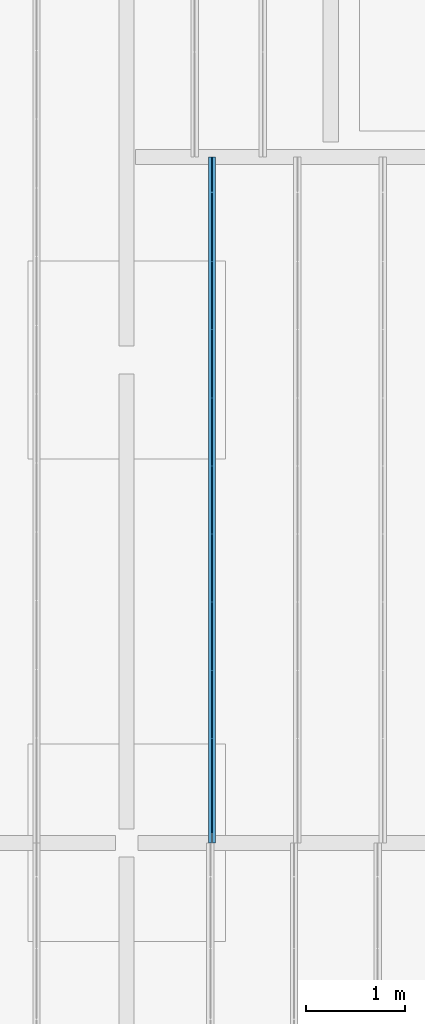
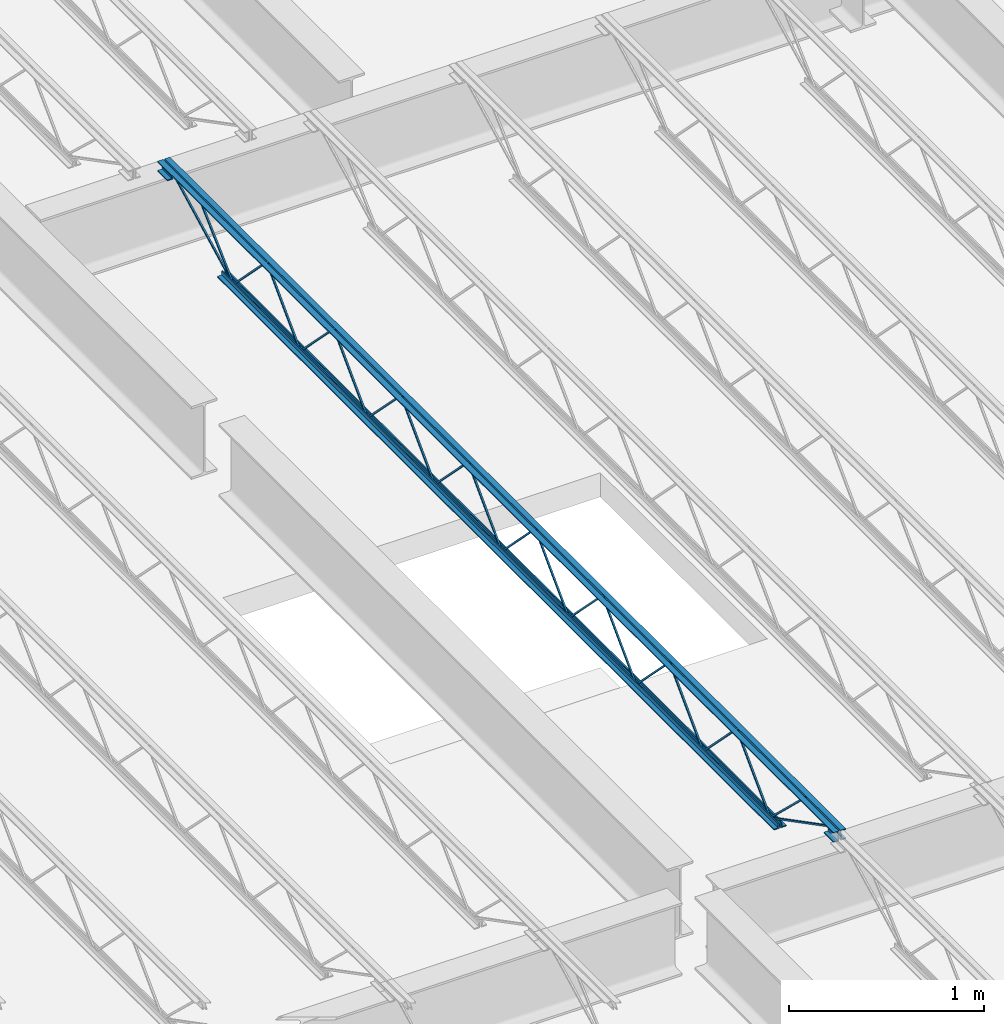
# One storey, part 24 of 75: 1 beam.
"""IFC2X3 building model written with IfcOpenShell, lengths in metres."""

from ifc_helpers import new_model, entity, si_unit, converted_unit, frame, origin, place, context, project, spatial, face_set, surface_model, element, save


model = new_model("IFC2X3")

# Units and contexts
model_context = context("Model", 3, precision=1e-09, world=origin())
plan_context = context("Plan", 3, precision=1e-09, world=origin())
ifc_project = project(units=[si_unit("LENGTHUNIT", "METRE"), si_unit("AREAUNIT", "SQUARE_METRE"), si_unit("VOLUMEUNIT", "CUBIC_METRE"), converted_unit("PLANEANGLEUNIT", "DEGREE", entity("IfcRatioMeasure", 0.01745329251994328), si_unit("PLANEANGLEUNIT", "RADIAN"), dimensions=[0, 0, 0, 0, 0, 0, 0]), si_unit("TIMEUNIT", "SECOND")], contexts=[model_context, plan_context])

# Site, building, storey
site_placement = place(None, origin())
site = spatial("IfcSite", under=ifc_project, at=site_placement, Name="Default", CompositionType="ELEMENT")
building_placement = place(site_placement, origin())
building = spatial("IfcBuilding", under=site, at=building_placement, CompositionType="ELEMENT")
storey_placement = place(building_placement, origin())
storey = spatial("IfcBuildingStorey", under=building, at=storey_placement, Name="First Floor", CompositionType="ELEMENT", Elevation=-3.531500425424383e-13)

# Beam
beam_placement = place(storey_placement, frame((-19.2334125, 18.61003029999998, 4.112000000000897), z_axis=(0.0, 0.0, 1.0), x_axis=(-1.0, 0.0, 0.0)))
element("IfcBeam", 1, at=beam_placement, inside=storey, Name="M_K-Series Bar Joist-Rod Web:14K1:14K1", ObjectType="M_K-Series Bar Joist-Rod Web:14K1", context=model_context, shape_type="SurfaceModel", body=[
    surface_model("IfcFaceBasedSurfaceModel", [(-0.03199999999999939, -2.08975000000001, 0.01110000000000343), (-0.04149999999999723, -2.08975000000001, 0.01110000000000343), (-0.04149999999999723, -2.08975000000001, 0.001600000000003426), (-0.03199999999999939, -2.08975000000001, 0.001600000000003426), (-0.0414999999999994, -2.088563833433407, 0.01110000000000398), (-0.03199999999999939, -2.088563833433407, 0.01110000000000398), (-0.04149999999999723, -2.084586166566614, 0.001600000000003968), (-0.04149999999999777, -1.746498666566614, 0.3449000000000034), (-0.04149999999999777, -1.744126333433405, 0.3449000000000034), (-0.0414999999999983, -1.40603883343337, 0.001600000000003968), (-0.04150000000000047, -1.400875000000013, 0.001600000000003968), (-0.04149999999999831, -1.400875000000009, 0.01110000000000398), (-0.0414999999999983, -1.402061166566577, 0.01110000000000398), (-0.04149999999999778, -1.740148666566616, 0.3544000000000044), (-0.04149999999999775, -1.750476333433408, 0.3544000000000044), (-0.03199999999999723, -2.084586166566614, 0.001600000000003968), (-0.03199999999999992, -1.746498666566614, 0.3449000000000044), (-0.03199999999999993, -1.744126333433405, 0.3449000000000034), (-0.03199999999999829, -1.40603883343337, 0.001600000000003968), (-0.03199999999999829, -1.400875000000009, 0.001600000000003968), (-0.03199999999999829, -1.400875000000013, 0.01110000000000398), (-0.03200000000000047, -1.402061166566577, 0.01110000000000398), (-0.03199999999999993, -1.740148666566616, 0.3544000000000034), (-0.03199999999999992, -1.750476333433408, 0.3544000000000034), (-0.03200000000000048, -2.778625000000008, 0.01110000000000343), (-0.04149999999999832, -2.778625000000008, 0.01110000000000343), (-0.04149999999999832, -2.778625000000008, 0.001600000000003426), (-0.03200000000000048, -2.778625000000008, 0.001600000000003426), (-0.04150000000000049, -2.777438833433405, 0.01110000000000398), (-0.03200000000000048, -2.777438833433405, 0.01110000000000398), (-0.04149999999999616, -2.773461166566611, 0.001600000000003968), (-0.04149999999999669, -2.435373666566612, 0.3449000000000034), (-0.04149999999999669, -2.433001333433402, 0.3449000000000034), (-0.04149999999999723, -2.094913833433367, 0.001600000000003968), (-0.04149999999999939, -2.089750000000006, 0.001600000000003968), (-0.04149999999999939, -2.089750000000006, 0.01110000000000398), (-0.04149999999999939, -2.090936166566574, 0.01110000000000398), (-0.04149999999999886, -2.429023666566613, 0.3544000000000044), (-0.04149999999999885, -2.439351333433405, 0.3544000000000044), (-0.03199999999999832, -2.773461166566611, 0.001600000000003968), (-0.03200000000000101, -2.435373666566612, 0.3449000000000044), (-0.03200000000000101, -2.433001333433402, 0.3449000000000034), (-0.03199999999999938, -2.094913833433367, 0.001600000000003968), (-0.03199999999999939, -2.089750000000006, 0.001600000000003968), (-0.03199999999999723, -2.089750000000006, 0.01110000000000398), (-0.03199999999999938, -2.090936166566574, 0.01110000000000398), (-0.03199999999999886, -2.429023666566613, 0.3544000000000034), (-0.03199999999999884, -2.439351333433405, 0.3544000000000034), (-0.0319999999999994, -3.467500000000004, 0.01110000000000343), (-0.04149999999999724, -3.467500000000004, 0.01110000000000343), (-0.04149999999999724, -3.467500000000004, 0.001600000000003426), (-0.0319999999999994, -3.467500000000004, 0.001600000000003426), (-0.04149999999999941, -3.466313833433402, 0.01110000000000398), (-0.0319999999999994, -3.466313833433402, 0.01110000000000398), (-0.04149999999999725, -3.462336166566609, 0.001600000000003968), (-0.04149999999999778, -3.124248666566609, 0.3449000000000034), (-0.04149999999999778, -3.121876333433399, 0.3449000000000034), (-0.04149999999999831, -2.783788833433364, 0.001600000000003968), (-0.04150000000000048, -2.778625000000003, 0.001600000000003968), (-0.04149999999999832, -2.778625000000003, 0.01110000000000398), (-0.04149999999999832, -2.779811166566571, 0.01110000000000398), (-0.04149999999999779, -3.11789866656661, 0.3544000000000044), (-0.04149999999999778, -3.128226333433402, 0.3544000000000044), (-0.03199999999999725, -3.462336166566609, 0.001600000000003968), (-0.03199999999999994, -3.124248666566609, 0.3449000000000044), (-0.03199999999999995, -3.121876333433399, 0.3449000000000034), (-0.03199999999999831, -2.783788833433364, 0.001600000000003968), (-0.03199999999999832, -2.778625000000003, 0.001600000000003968), (-0.03199999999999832, -2.778625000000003, 0.01110000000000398), (-0.03200000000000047, -2.779811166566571, 0.01110000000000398), (-0.03199999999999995, -3.11789866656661, 0.3544000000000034), (-0.03199999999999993, -3.128226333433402, 0.3544000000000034), (-0.03199999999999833, -4.156375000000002, 0.01110000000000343), (-0.04149999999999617, -4.156375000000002, 0.01110000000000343), (-0.04149999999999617, -4.156375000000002, 0.001600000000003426), (-0.03199999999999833, -4.156375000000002, 0.001600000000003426), (-0.04149999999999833, -4.155188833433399, 0.01110000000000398), (-0.03199999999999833, -4.155188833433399, 0.01110000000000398), (-0.04149999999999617, -4.151211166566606, 0.001600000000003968), (-0.0414999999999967, -3.813123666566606, 0.3449000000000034), (-0.04149999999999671, -3.810751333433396, 0.3449000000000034), (-0.04149999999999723, -3.472663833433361, 0.001600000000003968), (-0.04149999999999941, -3.4675, 0.001600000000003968), (-0.04149999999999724, -3.4675, 0.01110000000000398), (-0.04149999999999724, -3.468686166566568, 0.01110000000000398), (-0.04149999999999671, -3.806773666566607, 0.3544000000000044), (-0.0414999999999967, -3.817101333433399, 0.3544000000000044), (-0.03199999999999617, -4.151211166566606, 0.001600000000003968), (-0.03199999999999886, -3.813123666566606, 0.3449000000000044), (-0.03199999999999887, -3.810751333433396, 0.3449000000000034), (-0.03199999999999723, -3.472663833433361, 0.001600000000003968), (-0.03199999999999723, -3.4675, 0.001600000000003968), (-0.03199999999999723, -3.4675, 0.01110000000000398), (-0.0319999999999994, -3.468686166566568, 0.01110000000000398), (-0.03199999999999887, -3.806773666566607, 0.3544000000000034), (-0.03199999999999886, -3.817101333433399, 0.3544000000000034), (-0.03199999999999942, -4.845249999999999, 0.01110000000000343), (-0.04149999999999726, -4.845249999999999, 0.01110000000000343), (-0.04149999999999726, -4.845249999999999, 0.001600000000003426), (-0.03199999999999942, -4.845249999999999, 0.001600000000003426), (-0.04149999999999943, -4.844063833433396, 0.01110000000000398), (-0.03199999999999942, -4.844063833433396, 0.01110000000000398), (-0.04149999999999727, -4.840086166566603, 0.001600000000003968), (-0.04149999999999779, -4.501998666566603, 0.3449000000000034), (-0.0414999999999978, -4.499626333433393, 0.3449000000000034), (-0.04149999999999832, -4.161538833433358, 0.001600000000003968), (-0.04149999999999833, -4.156374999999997, 0.001600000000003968), (-0.04149999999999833, -4.156374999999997, 0.01110000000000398), (-0.04149999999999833, -4.157561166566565, 0.01110000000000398), (-0.0414999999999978, -4.495648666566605, 0.3544000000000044), (-0.04149999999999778, -4.505976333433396, 0.3544000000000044), (-0.03199999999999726, -4.840086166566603, 0.001600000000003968), (-0.03199999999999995, -4.501998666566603, 0.3449000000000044), (-0.03199999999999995, -4.499626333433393, 0.3449000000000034), (-0.03199999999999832, -4.161538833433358, 0.001600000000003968), (-0.03199999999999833, -4.156374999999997, 0.001600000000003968), (-0.03199999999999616, -4.156374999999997, 0.01110000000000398), (-0.03199999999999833, -4.157561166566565, 0.01110000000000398), (-0.03199999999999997, -4.495648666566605, 0.3544000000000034), (-0.03199999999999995, -4.505976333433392, 0.3544000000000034), (-0.03199999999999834, -5.534124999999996, 0.01110000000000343), (-0.04149999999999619, -5.534124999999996, 0.01110000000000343), (-0.04149999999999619, -5.534124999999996, 0.001600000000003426), (-0.03199999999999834, -5.534124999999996, 0.001600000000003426), (-0.04149999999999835, -5.532938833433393, 0.01110000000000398), (-0.03199999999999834, -5.532938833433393, 0.01110000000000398), (-0.04149999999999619, -5.5289611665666, 0.001600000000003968), (-0.04149999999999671, -5.1908736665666, 0.3449000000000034), (-0.04149999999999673, -5.188501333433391, 0.3449000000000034), (-0.04149999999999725, -4.850413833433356, 0.001600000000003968), (-0.04149999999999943, -4.845249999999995, 0.001600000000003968), (-0.04149999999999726, -4.845249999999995, 0.01110000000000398), (-0.04149999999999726, -4.846436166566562, 0.01110000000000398), (-0.04149999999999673, -5.184523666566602, 0.3544000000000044), (-0.04149999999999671, -5.194851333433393, 0.3544000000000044), (-0.03199999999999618, -5.5289611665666, 0.001600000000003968), (-0.03199999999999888, -5.1908736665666, 0.3449000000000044), (-0.03199999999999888, -5.188501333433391, 0.3449000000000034), (-0.03199999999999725, -4.850413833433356, 0.001600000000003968), (-0.03199999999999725, -4.845249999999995, 0.001600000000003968), (-0.03199999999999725, -4.845249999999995, 0.01110000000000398), (-0.03199999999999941, -4.846436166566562, 0.01110000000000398), (-0.03199999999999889, -5.184523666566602, 0.3544000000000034), (-0.03199999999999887, -5.194851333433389, 0.3544000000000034), (-0.03200000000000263, -1.400875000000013, 0.01109999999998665), (-0.04150000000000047, -1.400875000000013, 0.01109999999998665), (-0.04150000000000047, -1.400875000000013, 0.001599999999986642), (-0.03200000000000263, -1.400875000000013, 0.001599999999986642), (-0.04150000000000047, -1.39968883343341, 0.01109999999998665), (-0.03200000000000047, -1.39968883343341, 0.01109999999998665), (-0.04150000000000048, -1.395711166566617, 0.001599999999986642), (-0.04149999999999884, -1.057623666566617, 0.3448999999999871), (-0.04149999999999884, -1.055251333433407, 0.3448999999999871), (-0.04149999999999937, -0.7171638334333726, 0.001599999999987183), (-0.04150000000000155, -0.7120000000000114, 0.001599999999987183), (-0.04150000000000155, -0.7120000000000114, 0.01109999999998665), (-0.04150000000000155, -0.7131861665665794, 0.01109999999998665), (-0.04150000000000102, -1.051273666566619, 0.3543999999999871), (-0.04150000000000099, -1.06160133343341, 0.3543999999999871), (-0.03200000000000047, -1.395711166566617, 0.001599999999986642), (-0.032000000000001, -1.057623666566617, 0.3448999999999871), (-0.03200000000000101, -1.055251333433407, 0.3448999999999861), (-0.03199999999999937, -0.7171638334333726, 0.001599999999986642), (-0.03199999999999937, -0.7120000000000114, 0.001599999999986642), (-0.03199999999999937, -0.7120000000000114, 0.01109999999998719), (-0.03199999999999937, -0.7131861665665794, 0.01109999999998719), (-0.03199999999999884, -1.051273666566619, 0.3543999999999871), (-0.03199999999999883, -1.06160133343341, 0.3543999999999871), (-0.03199999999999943, -6.222999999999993, 0.01110000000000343), (-0.04149999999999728, -6.222999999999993, 0.01110000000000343), (-0.04149999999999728, -6.222999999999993, 0.001600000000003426), (-0.03199999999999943, -6.222999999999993, 0.001600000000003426), (-0.04149999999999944, -6.221813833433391, 0.01110000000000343), (-0.03199999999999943, -6.221813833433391, 0.01110000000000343), (-0.04149999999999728, -6.217836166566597, 0.001600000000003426), (-0.04149999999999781, -5.879748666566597, 0.3449000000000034), (-0.04149999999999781, -5.877376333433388, 0.3449000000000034), (-0.04149999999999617, -5.539288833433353, 0.001600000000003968), (-0.04149999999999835, -5.534124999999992, 0.001600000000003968), (-0.04149999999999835, -5.534124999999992, 0.01110000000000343), (-0.04149999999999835, -5.53531116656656, 0.01110000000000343), (-0.04149999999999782, -5.873398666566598, 0.3544000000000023), (-0.0414999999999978, -5.883726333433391, 0.3544000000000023), (-0.03199999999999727, -6.217836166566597, 0.001600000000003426), (-0.03199999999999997, -5.879748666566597, 0.3449000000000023), (-0.03199999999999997, -5.877376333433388, 0.3449000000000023), (-0.03199999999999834, -5.539288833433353, 0.001600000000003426), (-0.03199999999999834, -5.534124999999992, 0.001600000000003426), (-0.03199999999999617, -5.534124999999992, 0.01110000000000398), (-0.03199999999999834, -5.53531116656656, 0.01110000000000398), (-0.03199999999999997, -5.873398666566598, 0.3544000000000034), (-0.03199999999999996, -5.883726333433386, 0.3544000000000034), (-0.04150000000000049, 0.0, 0.3559999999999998), (-0.07349999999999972, 0.0, 0.3559999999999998), (-0.07349999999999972, 0.0, 0.349499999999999), (-0.04800000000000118, 0.0, 0.349499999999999), (-0.04800000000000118, 0.0, 0.3239999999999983), (-0.04150000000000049, 0.0, 0.3239999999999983), (-0.03200000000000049, 0.0, 0.3559999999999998), (-0.03200000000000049, 0.0, 0.3239999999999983), (-0.02549999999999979, 0.0, 0.3239999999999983), (-0.02549999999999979, 0.0, 0.349499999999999), (0.0, 0.0, 0.349499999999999), (0.0, 0.0, 0.3559999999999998), (-0.04149999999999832, -6.934999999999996, 0.3559999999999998), (-0.07349999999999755, -6.934999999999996, 0.3559999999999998), (-0.07349999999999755, -6.934999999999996, 0.349499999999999), (-0.04799999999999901, -6.934999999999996, 0.349499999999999), (-0.04799999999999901, -6.934999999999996, 0.3239999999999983), (-0.04149999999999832, -6.934999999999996, 0.3239999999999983), (-0.03199999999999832, -6.934999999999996, 0.3559999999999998), (-0.03199999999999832, -6.934999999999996, 0.3239999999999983), (-0.02549999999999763, -6.934999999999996, 0.3239999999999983), (-0.02549999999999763, -6.934999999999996, 0.349499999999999), (0.0, -6.934999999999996, 0.349499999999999), (0.0, -6.934999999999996, 0.3559999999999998), (-0.03199999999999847, -6.83500000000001, 0.2924999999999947), (0.0, -6.83500000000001, 0.2924999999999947), (0.0, -6.83500000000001, 0.2989999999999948), (-0.02549999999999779, -6.83500000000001, 0.2989999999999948), (-0.02549999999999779, -6.83500000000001, 0.3239999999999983), (-0.03199999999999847, -6.83500000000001, 0.3239999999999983), (-0.0734999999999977, -6.83500000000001, 0.2924999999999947), (-0.04149999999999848, -6.83500000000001, 0.2924999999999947), (-0.04149999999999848, -6.83500000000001, 0.3239999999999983), (-0.04799999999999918, -6.83500000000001, 0.3239999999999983), (-0.04799999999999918, -6.83500000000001, 0.2989999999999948), (-0.0734999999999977, -6.83500000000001, 0.2989999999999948), (-0.03199999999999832, -6.934999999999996, 0.2924999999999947), (0.0, -6.934999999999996, 0.2924999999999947), (0.0, -6.934999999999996, 0.2989999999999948), (-0.02549999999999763, -6.934999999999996, 0.2989999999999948), (-0.07349999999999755, -6.934999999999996, 0.2924999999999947), (-0.04149999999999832, -6.934999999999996, 0.2924999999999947), (-0.04799999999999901, -6.934999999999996, 0.2989999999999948), (-0.07349999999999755, -6.934999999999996, 0.2989999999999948), (-0.04150000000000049, 0.0, 0.2924999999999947), (-0.04799999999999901, 0.0, 0.3239999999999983), (-0.04799999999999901, 0.0, 0.2989999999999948), (-0.07349999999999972, 0.0, 0.2989999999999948), (-0.07349999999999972, 0.0, 0.2924999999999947), (-0.03200000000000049, 0.0, 0.2924999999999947), (0.0, 0.0, 0.2924999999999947), (0.0, 0.0, 0.2989999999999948), (-0.02549999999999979, 0.0, 0.2989999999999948), (-0.04150000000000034, -0.0999999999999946, 0.2924999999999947), (-0.04150000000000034, -0.0999999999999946, 0.3239999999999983), (-0.04799999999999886, -0.0999999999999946, 0.3239999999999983), (-0.04799999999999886, -0.0999999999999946, 0.2989999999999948), (-0.07349999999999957, -0.0999999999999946, 0.2989999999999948), (-0.07349999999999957, -0.0999999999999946, 0.2924999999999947), (-0.03200000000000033, -0.0999999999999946, 0.2924999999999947), (0.0, -0.0999999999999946, 0.2924999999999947), (0.0, -0.0999999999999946, 0.2989999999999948), (-0.02549999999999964, -0.0999999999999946, 0.2989999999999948), (-0.02549999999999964, -0.0999999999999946, 0.3239999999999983), (-0.03200000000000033, -0.0999999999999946, 0.3239999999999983), (-0.04149999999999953, -0.6119999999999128, 0.0), (-0.04149999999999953, -0.6119999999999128, 0.03199999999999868), (-0.04800000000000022, -0.6119999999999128, 0.03199999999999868), (-0.04800000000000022, -0.6119999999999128, 0.006499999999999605), (-0.07349999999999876, -0.6119999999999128, 0.006499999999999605), (-0.07349999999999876, -0.6119999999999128, 0.0), (-0.03199999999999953, -0.6119999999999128, 0.0), (0.0, -0.6119999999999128, 0.0), (0.0, -0.6119999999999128, 0.006499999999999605), (-0.02549999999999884, -0.6119999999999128, 0.006499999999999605), (-0.02549999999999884, -0.6119999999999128, 0.03199999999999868), (-0.03199999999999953, -0.6119999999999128, 0.03199999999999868), (-0.04149999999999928, -6.322999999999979, 0.0), (-0.04149999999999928, -6.322999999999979, 0.03199999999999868), (-0.04799999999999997, -6.322999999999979, 0.03199999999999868), (-0.04799999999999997, -6.322999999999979, 0.006499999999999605), (-0.0734999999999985, -6.322999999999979, 0.006499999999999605), (-0.0734999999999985, -6.322999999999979, 0.0), (-0.03199999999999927, -6.322999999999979, 0.0), (0.0, -6.322999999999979, 0.0), (0.0, -6.322999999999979, 0.006499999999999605), (-0.02549999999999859, -6.322999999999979, 0.006499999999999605), (-0.02549999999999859, -6.322999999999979, 0.03199999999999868), (-0.03199999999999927, -6.322999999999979, 0.03199999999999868), (-0.03199999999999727, -6.220811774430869, 0.01056594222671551), (-0.04149999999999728, -6.220811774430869, 0.01056594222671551), (-0.04149999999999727, -6.225188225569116, 0.002134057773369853), (-0.03199999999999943, -6.225188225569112, 0.002134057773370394), (-0.03199999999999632, -6.83384071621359, 0.3287499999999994), (-0.03199999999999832, -6.934999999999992, 0.3287499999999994), (-0.03199999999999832, -6.934999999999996, 0.3192499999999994), (-0.03199999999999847, -6.836159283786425, 0.3192499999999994), (-0.04149999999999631, -6.836159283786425, 0.3192499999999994), (-0.04149999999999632, -6.83384071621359, 0.3287499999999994), (-0.04149999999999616, -6.934999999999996, 0.3287499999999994), (-0.04149999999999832, -6.934999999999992, 0.3192499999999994), (-0.03199999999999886, -6.587394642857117, 0.341700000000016), (-0.0414999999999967, -6.587394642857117, 0.341700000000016), (-0.0414999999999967, -6.587394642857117, 0.332200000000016), (-0.03199999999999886, -6.587394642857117, 0.332200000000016), (-0.04149999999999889, -6.572812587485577, 0.341700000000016), (-0.03199999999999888, -6.572812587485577, 0.341700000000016), (-0.04149999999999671, -6.576576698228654, 0.332200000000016), (-0.04149999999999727, -6.226253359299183, 0.002889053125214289), (-0.04149999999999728, -6.219746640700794, 0.009810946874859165), (-0.03199999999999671, -6.576576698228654, 0.332200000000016), (-0.03199999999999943, -6.226253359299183, 0.002889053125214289), (-0.03199999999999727, -6.219746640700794, 0.009810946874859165), (-0.03200000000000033, -0.09781177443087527, 0.3197840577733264), (-0.03200000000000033, -0.1021882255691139, 0.3282159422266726), (-0.04149999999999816, -0.1021882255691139, 0.3282159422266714), (-0.04149999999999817, -0.09781177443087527, 0.3197840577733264), (-0.03199999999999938, -0.7098117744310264, 0.002134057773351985), (-0.03199999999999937, -0.7141882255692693, 0.01056594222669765), (-0.04149999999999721, -0.7141882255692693, 0.01056594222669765), (-0.04149999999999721, -0.7098117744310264, 0.002134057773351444), (-0.03199999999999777, -0.3497651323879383, 0.3462172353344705), (-0.03199999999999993, -0.3563312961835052, 0.3530827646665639), (-0.04149999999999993, -0.3563312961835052, 0.3530827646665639), (-0.04149999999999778, -0.3497651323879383, 0.3462172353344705), (-0.03199999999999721, -0.7087169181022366, 0.00291723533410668), (-0.03199999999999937, -0.7152830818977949, 0.009782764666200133), (-0.04149999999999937, -0.7152830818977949, 0.009782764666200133), (-0.04149999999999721, -0.7087169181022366, 0.00291723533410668)], [face_set([[[0, 1, 2, 3]], [[1, 4, 5, 0]], [[2, 6, 7, 8, 9, 10, 11, 12, 13, 14, 4, 1]], [[3, 2, 6, 15]], [[0, 3, 15, 16, 17, 18, 19, 20, 21, 22, 23, 5]], [[4, 5, 23, 14]], [[15, 16, 7, 6]], [[14, 13, 22, 23]], [[16, 7, 8, 17]], [[13, 12, 21, 22]], [[17, 8, 9, 18]], [[20, 11, 10, 19]], [[12, 11, 20, 21]], [[18, 9, 10, 19]]]), face_set([[[24, 25, 26, 27]], [[25, 28, 29, 24]], [[26, 30, 31, 32, 33, 34, 35, 36, 37, 38, 28, 25]], [[27, 26, 30, 39]], [[24, 27, 39, 40, 41, 42, 43, 44, 45, 46, 47, 29]], [[28, 29, 47, 38]], [[39, 40, 31, 30]], [[38, 37, 46, 47]], [[40, 31, 32, 41]], [[37, 36, 45, 46]], [[41, 32, 33, 42]], [[44, 35, 34, 43]], [[36, 35, 44, 45]], [[42, 33, 34, 43]]]), face_set([[[48, 49, 50, 51]], [[49, 52, 53, 48]], [[50, 54, 55, 56, 57, 58, 59, 60, 61, 62, 52, 49]], [[51, 50, 54, 63]], [[48, 51, 63, 64, 65, 66, 67, 68, 69, 70, 71, 53]], [[52, 53, 71, 62]], [[63, 64, 55, 54]], [[62, 61, 70, 71]], [[64, 55, 56, 65]], [[61, 60, 69, 70]], [[65, 56, 57, 66]], [[68, 59, 58, 67]], [[60, 59, 68, 69]], [[66, 57, 58, 67]]]), face_set([[[72, 73, 74, 75]], [[73, 76, 77, 72]], [[74, 78, 79, 80, 81, 82, 83, 84, 85, 86, 76, 73]], [[75, 74, 78, 87]], [[72, 75, 87, 88, 89, 90, 91, 92, 93, 94, 95, 77]], [[76, 77, 95, 86]], [[87, 88, 79, 78]], [[86, 85, 94, 95]], [[88, 79, 80, 89]], [[85, 84, 93, 94]], [[89, 80, 81, 90]], [[92, 83, 82, 91]], [[84, 83, 92, 93]], [[90, 81, 82, 91]]]), face_set([[[96, 97, 98, 99]], [[97, 100, 101, 96]], [[98, 102, 103, 104, 105, 106, 107, 108, 109, 110, 100, 97]], [[99, 98, 102, 111]], [[96, 99, 111, 112, 113, 114, 115, 116, 117, 118, 119, 101]], [[100, 101, 119, 110]], [[111, 112, 103, 102]], [[110, 109, 118, 119]], [[112, 103, 104, 113]], [[109, 108, 117, 118]], [[113, 104, 105, 114]], [[116, 107, 106, 115]], [[108, 107, 116, 117]], [[114, 105, 106, 115]]]), face_set([[[120, 121, 122, 123]], [[121, 124, 125, 120]], [[122, 126, 127, 128, 129, 130, 131, 132, 133, 134, 124, 121]], [[123, 122, 126, 135]], [[120, 123, 135, 136, 137, 138, 139, 140, 141, 142, 143, 125]], [[124, 125, 143, 134]], [[135, 136, 127, 126]], [[134, 133, 142, 143]], [[136, 127, 128, 137]], [[133, 132, 141, 142]], [[137, 128, 129, 138]], [[140, 131, 130, 139]], [[132, 131, 140, 141]], [[138, 129, 130, 139]]]), face_set([[[144, 145, 146, 147]], [[145, 148, 149, 144]], [[146, 150, 151, 152, 153, 154, 155, 156, 157, 158, 148, 145]], [[147, 146, 150, 159]], [[144, 147, 159, 160, 161, 162, 163, 164, 165, 166, 167, 149]], [[148, 149, 167, 158]], [[159, 160, 151, 150]], [[158, 157, 166, 167]], [[160, 151, 152, 161]], [[157, 156, 165, 166]], [[161, 152, 153, 162]], [[164, 155, 154, 163]], [[156, 155, 164, 165]], [[162, 153, 154, 163]]]), face_set([[[168, 169, 170, 171]], [[169, 172, 173, 168]], [[170, 174, 175, 176, 177, 178, 179, 180, 181, 182, 172, 169]], [[171, 170, 174, 183]], [[168, 171, 183, 184, 185, 186, 187, 188, 189, 190, 191, 173]], [[172, 173, 191, 182]], [[183, 184, 175, 174]], [[182, 181, 190, 191]], [[184, 175, 176, 185]], [[181, 180, 189, 190]], [[185, 176, 177, 186]], [[188, 179, 178, 187]], [[180, 179, 188, 189]], [[186, 177, 178, 187]]]), face_set([[[192, 193, 194, 195, 196, 197]], [[198, 199, 200, 201, 202, 203]], [[204, 205, 206, 207, 208, 209]], [[210, 211, 212, 213, 214, 215]], [[197, 192, 204, 209]], [[196, 197, 209, 208]], [[195, 207, 208, 196]], [[194, 195, 207, 206]], [[193, 205, 206, 194]], [[192, 204, 205, 193]], [[203, 215, 210, 198]], [[202, 203, 215, 214]], [[201, 202, 214, 213]], [[200, 201, 213, 212]], [[199, 200, 212, 211]], [[198, 210, 211, 199]]]), face_set([[[216, 217, 218, 219, 220, 221]], [[222, 223, 224, 225, 226, 227]], [[228, 229, 230, 231, 212, 211]], [[232, 233, 209, 208, 234, 235]], [[221, 211, 228, 216]], [[220, 212, 211, 221]], [[219, 220, 212, 231]], [[218, 230, 231, 219]], [[217, 218, 230, 229]], [[216, 217, 229, 228]], [[227, 235, 232, 222]], [[226, 234, 235, 227]], [[225, 208, 234, 226]], [[224, 209, 208, 225]], [[223, 224, 209, 233]], [[222, 223, 233, 232]]]), face_set([[[236, 197, 237, 238, 239, 240]], [[241, 242, 243, 244, 200, 199]], [[245, 246, 247, 248, 249, 250]], [[251, 252, 253, 254, 255, 256]], [[240, 236, 245, 250]], [[239, 249, 250, 240]], [[238, 248, 249, 239]], [[237, 247, 248, 238]], [[197, 246, 247, 237]], [[236, 197, 246, 245]], [[199, 256, 251, 241]], [[200, 255, 256, 199]], [[244, 200, 255, 254]], [[243, 253, 254, 244]], [[242, 243, 253, 252]], [[241, 242, 252, 251]]]), face_set([[[257, 258, 259, 260, 261, 262]], [[263, 264, 265, 266, 267, 268]], [[269, 270, 271, 272, 273, 274]], [[275, 276, 277, 278, 279, 280]], [[262, 257, 269, 274]], [[261, 273, 274, 262]], [[260, 272, 273, 261]], [[259, 271, 272, 260]], [[258, 270, 271, 259]], [[257, 258, 270, 269]], [[268, 280, 275, 263]], [[267, 279, 280, 268]], [[266, 267, 279, 278]], [[265, 277, 278, 266]], [[264, 265, 277, 276]], [[263, 264, 276, 275]]]), face_set([[[281, 282, 283, 284]], [[284, 281, 285, 286, 287, 288]], [[283, 284, 288, 289]], [[282, 290, 291, 292, 289, 283]], [[281, 285, 290, 282]], [[286, 291, 292, 287]], [[289, 288, 287, 292]], [[285, 286, 291, 290]]]), face_set([[[293, 294, 295, 296]], [[294, 297, 298, 293]], [[295, 299, 300, 301, 297, 294]], [[296, 295, 299, 302]], [[293, 296, 302, 303, 304, 298]], [[304, 301, 300, 303]], [[297, 301, 304, 298]], [[302, 299, 300, 303]]]), face_set([[[305, 306, 307, 308]], [[309, 310, 311, 312]], [[308, 312, 309, 305]], [[307, 311, 312, 308]], [[306, 307, 311, 310]], [[305, 306, 310, 309]]]), face_set([[[313, 314, 315, 316]], [[317, 318, 319, 320]], [[316, 320, 317, 313]], [[315, 319, 320, 316]], [[314, 315, 319, 318]], [[313, 314, 318, 317]]])]),
])

save(model, "model.ifc")
